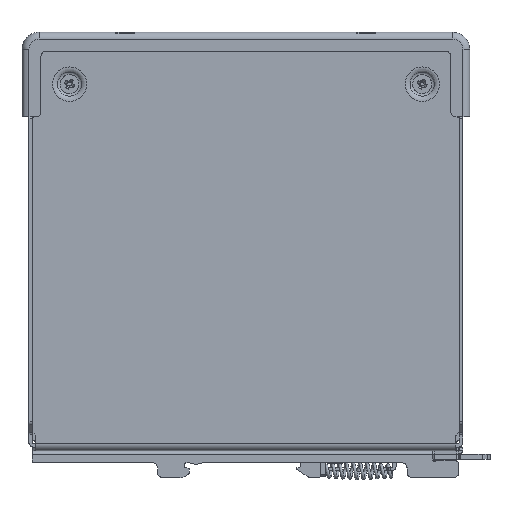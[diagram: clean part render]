
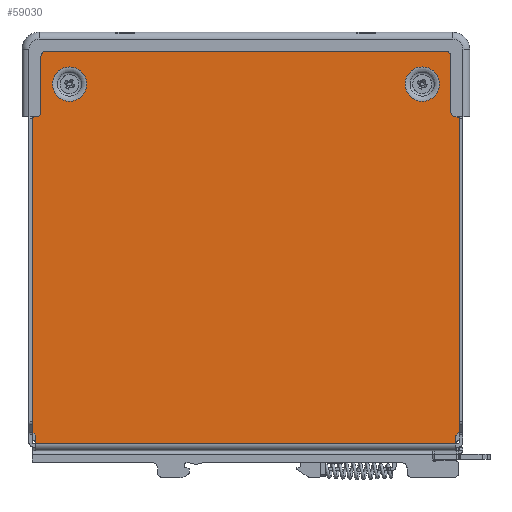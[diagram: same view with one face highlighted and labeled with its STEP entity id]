
A CAD part, left-side view. The second image highlights one B-rep face of the part: STEP entity #59030.
In plain terms, the highlighted planar face has unit normal (-1, 0, 0).
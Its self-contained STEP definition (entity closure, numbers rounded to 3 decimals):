
#5540=LINE('',#102824,#12677);
#5592=LINE('',#102973,#12729);
#5597=LINE('',#102986,#12734);
#5602=LINE('',#103000,#12739);
#5607=LINE('',#103018,#12744);
#5610=LINE('',#103026,#12747);
#5612=LINE('',#103032,#12749);
#5620=LINE('',#103059,#12757);
#5623=LINE('',#103069,#12760);
#5624=LINE('',#103070,#12761);
#5625=LINE('',#103074,#12762);
#5626=LINE('',#103075,#12763);
#12677=VECTOR('',#78656,1000.);
#12729=VECTOR('',#78814,1000.);
#12734=VECTOR('',#78827,1000.);
#12739=VECTOR('',#78840,1000.);
#12744=VECTOR('',#78859,1000.);
#12747=VECTOR('',#78868,1000.);
#12749=VECTOR('',#78876,1000.);
#12757=VECTOR('',#78902,1000.);
#12760=VECTOR('',#78917,1000.);
#12761=VECTOR('',#78918,1000.);
#12762=VECTOR('',#78921,1000.);
#12763=VECTOR('',#78922,1000.);
#16208=PLANE('',#66894);
#26843=ORIENTED_EDGE('',*,*,#37941,.T.);
#26844=ORIENTED_EDGE('',*,*,#38046,.T.);
#26845=ORIENTED_EDGE('',*,*,#38039,.F.);
#26846=ORIENTED_EDGE('',*,*,#37964,.F.);
#26847=ORIENTED_EDGE('',*,*,#38085,.T.);
#26848=ORIENTED_EDGE('',*,*,#38082,.F.);
#26849=ORIENTED_EDGE('',*,*,#38080,.T.);
#26850=ORIENTED_EDGE('',*,*,#38088,.T.);
#26851=ORIENTED_EDGE('',*,*,#38076,.T.);
#26852=ORIENTED_EDGE('',*,*,#38089,.F.);
#26853=ORIENTED_EDGE('',*,*,#38090,.T.);
#26854=ORIENTED_EDGE('',*,*,#38091,.T.);
#26855=ORIENTED_EDGE('',*,*,#38072,.T.);
#26856=ORIENTED_EDGE('',*,*,#38069,.T.);
#26857=ORIENTED_EDGE('',*,*,#38068,.T.);
#26858=ORIENTED_EDGE('',*,*,#38066,.T.);
#26859=ORIENTED_EDGE('',*,*,#38063,.T.);
#26860=ORIENTED_EDGE('',*,*,#38062,.T.);
#26861=ORIENTED_EDGE('',*,*,#38060,.T.);
#26862=ORIENTED_EDGE('',*,*,#38092,.F.);
#26863=ORIENTED_EDGE('',*,*,#38056,.T.);
#26864=ORIENTED_EDGE('',*,*,#38053,.T.);
#26865=ORIENTED_EDGE('',*,*,#38049,.T.);
#26866=ORIENTED_EDGE('',*,*,#37944,.T.);
#37941=EDGE_CURVE('',#46419,#46419,#50679,.T.);
#37944=EDGE_CURVE('',#46422,#46422,#50682,.T.);
#37964=EDGE_CURVE('',#46440,#46441,#5540,.T.);
#38039=EDGE_CURVE('',#46441,#46485,#5592,.T.);
#38046=EDGE_CURVE('',#46489,#46485,#5597,.T.);
#38049=EDGE_CURVE('',#46491,#46489,#50721,.T.);
#38053=EDGE_CURVE('',#46492,#46491,#5602,.T.);
#38056=EDGE_CURVE('',#46495,#46492,#50723,.T.);
#38060=EDGE_CURVE('',#46496,#46498,#50725,.T.);
#38062=EDGE_CURVE('',#46499,#46496,#5607,.T.);
#38063=EDGE_CURVE('',#46500,#46499,#50726,.T.);
#38066=EDGE_CURVE('',#46501,#46500,#5610,.T.);
#38068=EDGE_CURVE('',#46502,#46501,#50727,.T.);
#38069=EDGE_CURVE('',#46503,#46502,#5612,.T.);
#38072=EDGE_CURVE('',#46504,#46503,#50728,.T.);
#38076=EDGE_CURVE('',#46506,#46507,#50730,.T.);
#38080=EDGE_CURVE('',#46508,#46511,#50732,.T.);
#38082=EDGE_CURVE('',#46508,#46513,#5620,.T.);
#38085=EDGE_CURVE('',#46440,#46513,#50734,.T.);
#38088=EDGE_CURVE('',#46511,#46506,#5623,.T.);
#38089=EDGE_CURVE('',#46514,#46507,#5624,.T.);
#38090=EDGE_CURVE('',#46514,#46515,#50736,.T.);
#38091=EDGE_CURVE('',#46515,#46504,#5625,.T.);
#38092=EDGE_CURVE('',#46495,#46498,#5626,.T.);
#46419=VERTEX_POINT('',#102770);
#46422=VERTEX_POINT('',#102778);
#46440=VERTEX_POINT('',#102823);
#46441=VERTEX_POINT('',#102825);
#46485=VERTEX_POINT('',#102974);
#46489=VERTEX_POINT('',#102987);
#46491=VERTEX_POINT('',#102993);
#46492=VERTEX_POINT('',#102997);
#46495=VERTEX_POINT('',#103004);
#46496=VERTEX_POINT('',#103009);
#46498=VERTEX_POINT('',#103013);
#46499=VERTEX_POINT('',#103017);
#46500=VERTEX_POINT('',#103021);
#46501=VERTEX_POINT('',#103025);
#46502=VERTEX_POINT('',#103029);
#46503=VERTEX_POINT('',#103033);
#46504=VERTEX_POINT('',#103037);
#46506=VERTEX_POINT('',#103042);
#46507=VERTEX_POINT('',#103045);
#46508=VERTEX_POINT('',#103049);
#46511=VERTEX_POINT('',#103054);
#46513=VERTEX_POINT('',#103060);
#46514=VERTEX_POINT('',#103071);
#46515=VERTEX_POINT('',#103073);
#50679=CIRCLE('',#66780,4.982);
#50682=CIRCLE('',#66785,4.982);
#50721=CIRCLE('',#66865,0.5);
#50723=CIRCLE('',#66869,0.5);
#50725=CIRCLE('',#66872,0.5);
#50726=CIRCLE('',#66875,1.5);
#50727=CIRCLE('',#66878,1.5);
#50728=CIRCLE('',#66881,1.5);
#50730=CIRCLE('',#66884,0.5);
#50732=CIRCLE('',#66887,0.5);
#50734=CIRCLE('',#66891,0.5);
#50736=CIRCLE('',#66895,1.5);
#54223=EDGE_LOOP('',(#26843));
#54224=EDGE_LOOP('',(#26844,#26845,#26846,#26847,#26848,#26849,#26850,#26851,
#26852,#26853,#26854,#26855,#26856,#26857,#26858,#26859,#26860,#26861,#26862,
#26863,#26864,#26865));
#54225=EDGE_LOOP('',(#26866));
#56680=FACE_BOUND('',#54223,.T.);
#56681=FACE_BOUND('',#54224,.T.);
#56682=FACE_BOUND('',#54225,.T.);
#59030=ADVANCED_FACE('',(#56680,#56681,#56682),#16208,.F.);
#66780=AXIS2_PLACEMENT_3D('',#102769,#78597,#78598);
#66785=AXIS2_PLACEMENT_3D('',#102777,#78607,#78608);
#66865=AXIS2_PLACEMENT_3D('',#102992,#78833,#78834);
#66869=AXIS2_PLACEMENT_3D('',#103006,#78846,#78847);
#66872=AXIS2_PLACEMENT_3D('',#103014,#78854,#78855);
#66875=AXIS2_PLACEMENT_3D('',#103020,#78862,#78863);
#66878=AXIS2_PLACEMENT_3D('',#103030,#78872,#78873);
#66881=AXIS2_PLACEMENT_3D('',#103038,#78881,#78882);
#66884=AXIS2_PLACEMENT_3D('',#103046,#78889,#78890);
#66887=AXIS2_PLACEMENT_3D('',#103055,#78897,#78898);
#66891=AXIS2_PLACEMENT_3D('',#103064,#78908,#78909);
#66894=AXIS2_PLACEMENT_3D('',#103068,#78915,#78916);
#66895=AXIS2_PLACEMENT_3D('',#103072,#78919,#78920);
#78597=DIRECTION('',(1.,0.,0.));
#78598=DIRECTION('',(0.,0.,-1.));
#78607=DIRECTION('',(1.,0.,0.));
#78608=DIRECTION('',(0.,0.,-1.));
#78656=DIRECTION('',(0.,0.,-1.));
#78814=DIRECTION('',(0.,1.,0.));
#78827=DIRECTION('',(0.,0.,-1.));
#78833=DIRECTION('',(1.,0.,0.));
#78834=DIRECTION('',(0.,0.,-1.));
#78840=DIRECTION('',(0.,-0.707,-0.707));
#78846=DIRECTION('',(-1.,0.,0.));
#78847=DIRECTION('',(0.,0.,-1.));
#78854=DIRECTION('',(-1.,0.,0.));
#78855=DIRECTION('',(0.,0.,-1.));
#78859=DIRECTION('',(0.,1.,0.));
#78862=DIRECTION('',(1.,0.,0.));
#78863=DIRECTION('',(0.,0.,-1.));
#78868=DIRECTION('',(0.,0.,-1.));
#78872=DIRECTION('',(-1.,0.,0.));
#78873=DIRECTION('',(0.,0.,-1.));
#78876=DIRECTION('',(0.,1.,0.));
#78881=DIRECTION('',(-1.,0.,0.));
#78882=DIRECTION('',(0.,0.,-1.));
#78889=DIRECTION('',(-1.,0.,0.));
#78890=DIRECTION('',(0.,0.,-1.));
#78897=DIRECTION('',(-1.,0.,0.));
#78898=DIRECTION('',(0.,0.,-1.));
#78902=DIRECTION('',(0.,0.707,-0.707));
#78908=DIRECTION('',(1.,0.,0.));
#78909=DIRECTION('',(0.,0.,-1.));
#78915=DIRECTION('',(1.,0.,0.));
#78916=DIRECTION('',(0.,1.,0.));
#78917=DIRECTION('',(0.,0.,1.));
#78918=DIRECTION('',(0.,-1.,0.));
#78919=DIRECTION('',(1.,0.,0.));
#78920=DIRECTION('',(0.,0.,-1.));
#78921=DIRECTION('',(0.,0.,1.));
#78922=DIRECTION('',(0.,0.,1.));
#102769=CARTESIAN_POINT('',(-49.023,12.8,108.37));
#102770=CARTESIAN_POINT('',(-49.023,12.8,103.388));
#102777=CARTESIAN_POINT('',(-49.023,115.2,108.37));
#102778=CARTESIAN_POINT('',(-49.023,115.2,103.388));
#102823=CARTESIAN_POINT('',(-49.023,3.,6.123));
#102824=CARTESIAN_POINT('',(-49.023,3.,7.334));
#102825=CARTESIAN_POINT('',(-49.023,3.,3.92));
#102973=CARTESIAN_POINT('',(-49.023,128.,3.92));
#102974=CARTESIAN_POINT('',(-49.023,125.,3.92));
#102986=CARTESIAN_POINT('',(-49.023,125.,7.334));
#102987=CARTESIAN_POINT('',(-49.023,125.,6.127));
#102992=CARTESIAN_POINT('',(-49.023,125.5,6.127));
#102993=CARTESIAN_POINT('',(-49.023,125.146,6.48));
#102997=CARTESIAN_POINT('',(-49.023,125.854,7.187));
#103000=CARTESIAN_POINT('',(-49.023,127.,8.334));
#103004=CARTESIAN_POINT('',(-49.023,126.,7.541));
#103006=CARTESIAN_POINT('',(-49.023,125.5,7.541));
#103009=CARTESIAN_POINT('',(-49.023,125.5,98.82));
#103013=CARTESIAN_POINT('',(-49.023,126.,98.32));
#103014=CARTESIAN_POINT('',(-49.023,125.5,98.32));
#103017=CARTESIAN_POINT('',(-49.023,124.999,98.82));
#103018=CARTESIAN_POINT('',(-49.023,128.,98.82));
#103020=CARTESIAN_POINT('',(-49.023,124.999,100.32));
#103021=CARTESIAN_POINT('',(-49.023,123.499,100.32));
#103025=CARTESIAN_POINT('',(-49.023,123.499,116.42));
#103026=CARTESIAN_POINT('',(-49.023,123.499,118.92));
#103029=CARTESIAN_POINT('',(-49.023,121.999,117.92));
#103030=CARTESIAN_POINT('',(-49.023,121.999,116.42));
#103032=CARTESIAN_POINT('',(-49.023,128.,117.92));
#103033=CARTESIAN_POINT('',(-49.023,6.,117.92));
#103037=CARTESIAN_POINT('',(-49.023,4.5,116.42));
#103038=CARTESIAN_POINT('',(-49.023,6.,116.42));
#103042=CARTESIAN_POINT('',(-49.023,2.,98.32));
#103045=CARTESIAN_POINT('',(-49.023,2.5,98.82));
#103046=CARTESIAN_POINT('',(-49.023,2.5,98.32));
#103049=CARTESIAN_POINT('',(-49.023,2.146,7.184));
#103054=CARTESIAN_POINT('',(-49.023,2.,7.538));
#103055=CARTESIAN_POINT('',(-49.023,2.5,7.538));
#103059=CARTESIAN_POINT('',(-49.023,0.998,8.332));
#103060=CARTESIAN_POINT('',(-49.023,2.854,6.477));
#103064=CARTESIAN_POINT('',(-49.023,2.5,6.123));
#103068=CARTESIAN_POINT('',(-49.023,128.,1.92));
#103069=CARTESIAN_POINT('',(-49.023,2.,1.92));
#103070=CARTESIAN_POINT('',(-49.023,128.,98.82));
#103071=CARTESIAN_POINT('',(-49.023,3.,98.82));
#103072=CARTESIAN_POINT('',(-49.023,3.,100.32));
#103073=CARTESIAN_POINT('',(-49.023,4.5,100.32));
#103074=CARTESIAN_POINT('',(-49.023,4.5,96.22));
#103075=CARTESIAN_POINT('',(-49.023,126.,1.92));
